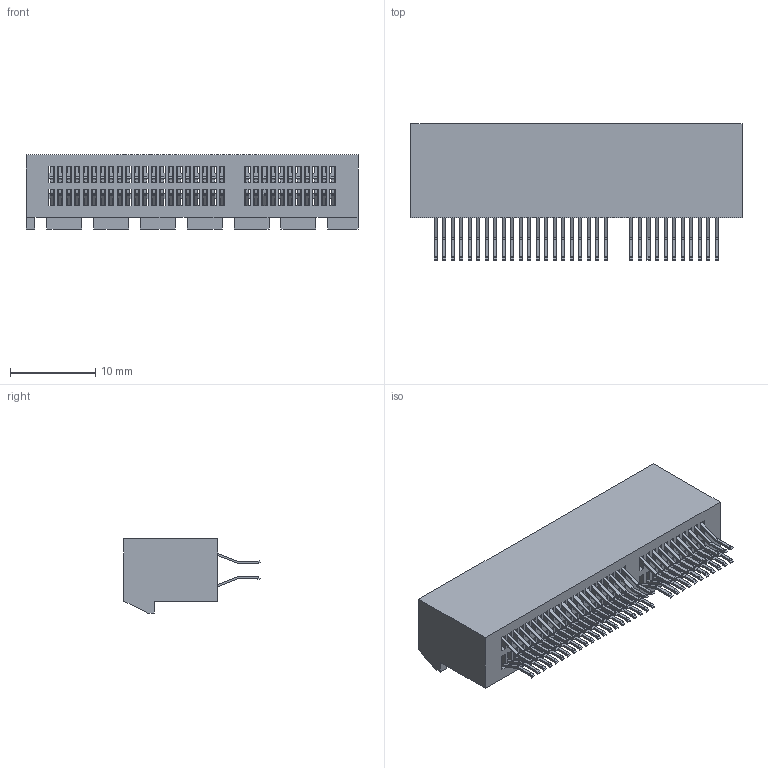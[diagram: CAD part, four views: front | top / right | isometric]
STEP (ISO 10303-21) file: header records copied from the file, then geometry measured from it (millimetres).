
FILE_DESCRIPTION( ( 'STEP AP214' ), '1' );
FILE_NAME( 'e:/temp/worker_44/temp/exporttempdir_6312_1526_tZlxv/format_0/PCIE-064-02-F-D-EMS2.stp', '2021-11-16T10:21:57', ( 'License CC BY-ND 4.0' ), ( 'CADENAS' ), ' ', 'PARTsolutions', ' ' );
FILE_SCHEMA( ( 'AUTOMOTIVE_DESIGN { 1 0 10303 214 1 1 1 1 }' ) );
Length unit declared in the file: millimetre
Products named in the file (3): PCIE-064-02-F-D-EMS2; _PCIE-064-02-F-D-EMS2_body; _PCIE-064-02-F-D-EMS2_pins1
Assembly tree (2 placements, depth 2):
  PCIE-064-02-F-D-EMS2
    _PCIE-064-02-F-D-EMS2_body
    _PCIE-064-02-F-D-EMS2_pins1
Bounding box: 39 x 16.07 x 8.7 mm (x, y, z)
Volume: 2107.1 mm3; surface area: 6643.1 mm2
Topology: 2 solids, 2 shells, 2636 faces, 8257 edges, 5500 vertices
Faces by surface type: plane 1868, cylinder 768
Entity records: 112839 total; most frequent: ORIENTED_EDGE 16514, CARTESIAN_POINT 16396, DIRECTION 15071, EDGE_CURVE 8257, LINE 6721, VECTOR 6721, VERTEX_POINT 5500, AXIS2_PLACEMENT_3D 4175
